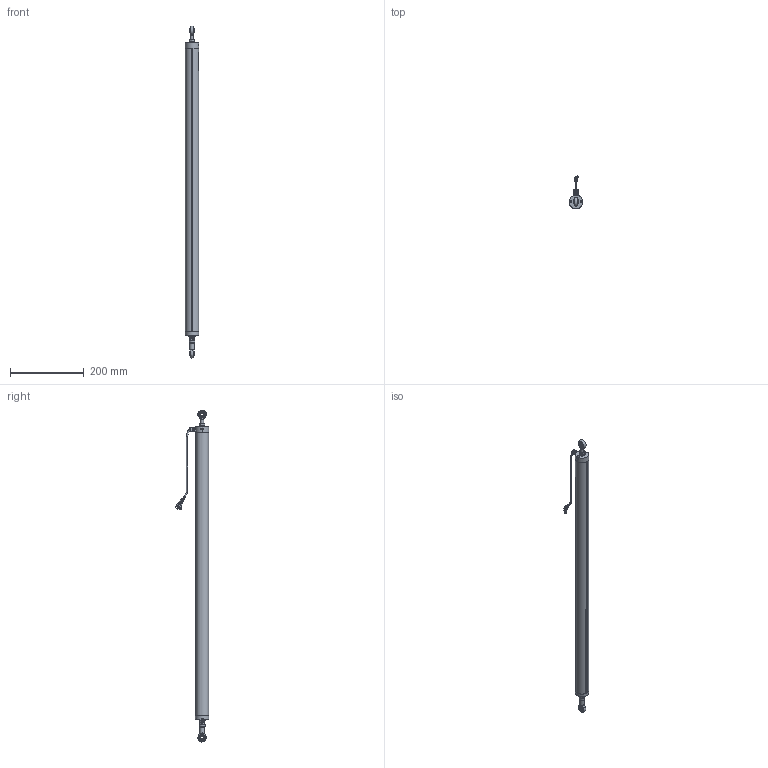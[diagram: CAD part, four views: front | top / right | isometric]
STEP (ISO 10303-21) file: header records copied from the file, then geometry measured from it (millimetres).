
FILE_DESCRIPTION(/* description */ (''),/* implementation_level */ '2;1');
FILE_NAME(/* name */ 'C:\Users\Justin\Documents\CAD\The Sensor Connection\LPPS\LPPS-36B Series\3D\LPPS-36B-700\LPPS 36B-700 Assembly.stp',/* time_stamp */ '2020-10-01T09:30:15-04:00',/* author */ ('Justin'),/* organization */ (''),/* preprocessor_version */ 'ST-DEVELOPER v18.1',/* originating_system */ 'Autodesk Inventor 2021',/* authorisation */ '');
FILE_SCHEMA (('AUTOMOTIVE_DESIGN { 1 0 10303 214 3 1 1 }'));
Length unit declared in the file: inch
Products named in the file (3): LPPS 36B-700 Assembly; LPPS 36B-700 Shaft_Shrinkwrap; LPPS 36B-700_Shrinkwrap
Assembly tree (2 placements, depth 2):
  LPPS 36B-700 Assembly
    LPPS 36B-700 Shaft_Shrinkwrap
    LPPS 36B-700_Shrinkwrap
Bounding box: 36.05 x 90.87 x 899.86 mm (x, y, z)
Volume: 263412.4 mm3; surface area: 224387 mm2
Topology: 27 solids, 27 shells, 1058 faces, 2601 edges, 1671 vertices
Faces by surface type: plane 468, cylinder 257, bspline 195, torus 73, cone 60, sphere 5
Full cylindrical faces by diameter (mm): 1.236 x3, 2.5 x2, 3 x6, 3.175 x3, 3.5 x5, 3.708 x1, 5 x3, 5.5 x1, 6 x2, 6.647 x1, 7 x3, 8 x11, 8.1 x1, 8.4 x1, 9 x1, 10 x1, 11 x1, 12.5 x1, 15 x4, 15.8 x1, 16 x1, 18.5 x3, 36 x1
Entity records: 37566 total; most frequent: CARTESIAN_POINT 12074, ORIENTED_EDGE 5202, DIRECTION 4715, EDGE_CURVE 2601, AXIS2_PLACEMENT_3D 1782, VERTEX_POINT 1671, EDGE_LOOP 1175, LINE 1151
